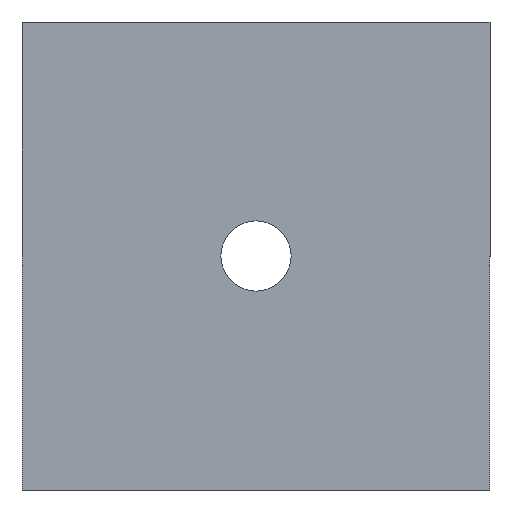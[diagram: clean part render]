
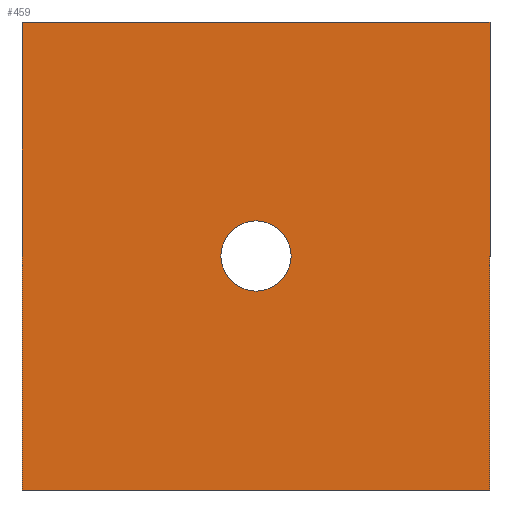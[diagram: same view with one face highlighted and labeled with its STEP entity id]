
A CAD part, front view. The second image highlights one B-rep face of the part: STEP entity #459.
In plain terms, the highlighted planar face has unit normal (0, -1, 0).
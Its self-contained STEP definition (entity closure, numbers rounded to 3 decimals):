
#10 = DIRECTION ( 'NONE',  ( -1., 0., 0. ) ) ;
#11 = LINE ( 'NONE', #58, #465 ) ;
#23 = CARTESIAN_POINT ( 'NONE',  ( -15., 0., -15. ) ) ;
#57 = CIRCLE ( 'NONE', #281, 2.25 ) ;
#58 = CARTESIAN_POINT ( 'NONE',  ( -15., 0., -15. ) ) ;
#60 = EDGE_CURVE ( 'NONE', #222, #157, #57, .T. ) ;
#61 = VECTOR ( 'NONE', #477, 1000. ) ;
#67 = DIRECTION ( 'NONE',  ( 0., 0., 1. ) ) ;
#91 = ORIENTED_EDGE ( 'NONE', *, *, #543, .F. ) ;
#147 = AXIS2_PLACEMENT_3D ( 'NONE', #556, #334, #67 ) ;
#150 = DIRECTION ( 'NONE',  ( 0., 0., 1. ) ) ;
#152 = EDGE_CURVE ( 'NONE', #265, #256, #11, .T. ) ;
#153 = ORIENTED_EDGE ( 'NONE', *, *, #152, .F. ) ;
#157 = VERTEX_POINT ( 'NONE', #232 ) ;
#160 = CARTESIAN_POINT ( 'NONE',  ( 15., 0., -15. ) ) ;
#191 = VECTOR ( 'NONE', #416, 1000. ) ;
#196 = AXIS2_PLACEMENT_3D ( 'NONE', #561, #328, #514 ) ;
#205 = CARTESIAN_POINT ( 'NONE',  ( 0., 0., 2.25 ) ) ;
#211 = EDGE_LOOP ( 'NONE', ( #313, #153, #263, #91 ) ) ;
#214 = LINE ( 'NONE', #338, #61 ) ;
#222 = VERTEX_POINT ( 'NONE', #205 ) ;
#232 = CARTESIAN_POINT ( 'NONE',  ( 0., 0., -2.25 ) ) ;
#238 = VECTOR ( 'NONE', #379, 1000. ) ;
#254 = FACE_OUTER_BOUND ( 'NONE', #211, .T. ) ;
#256 = VERTEX_POINT ( 'NONE', #23 ) ;
#263 = ORIENTED_EDGE ( 'NONE', *, *, #426, .F. ) ;
#265 = VERTEX_POINT ( 'NONE', #160 ) ;
#281 = AXIS2_PLACEMENT_3D ( 'NONE', #494, #399, #150 ) ;
#284 = CARTESIAN_POINT ( 'NONE',  ( 15., 0., 15. ) ) ;
#292 = CARTESIAN_POINT ( 'NONE',  ( -15., 0., 15. ) ) ;
#309 = ORIENTED_EDGE ( 'NONE', *, *, #60, .T. ) ;
#313 = ORIENTED_EDGE ( 'NONE', *, *, #383, .F. ) ;
#318 = LINE ( 'NONE', #292, #238 ) ;
#319 = EDGE_CURVE ( 'NONE', #157, #222, #413, .T. ) ;
#328 = DIRECTION ( 'NONE',  ( 0., 1., 0. ) ) ;
#334 = DIRECTION ( 'NONE',  ( 0., 1., 0. ) ) ;
#338 = CARTESIAN_POINT ( 'NONE',  ( -15., 0., -15. ) ) ;
#341 = CARTESIAN_POINT ( 'NONE',  ( -15., 0., 15. ) ) ;
#379 = DIRECTION ( 'NONE',  ( 1., 0., 0. ) ) ;
#383 = EDGE_CURVE ( 'NONE', #256, #582, #214, .T. ) ;
#399 = DIRECTION ( 'NONE',  ( 0., 1., 0. ) ) ;
#413 = CIRCLE ( 'NONE', #147, 2.25 ) ;
#416 = DIRECTION ( 'NONE',  ( 0., 0., -1. ) ) ;
#426 = EDGE_CURVE ( 'NONE', #446, #265, #504, .T. ) ;
#446 = VERTEX_POINT ( 'NONE', #284 ) ;
#458 = CARTESIAN_POINT ( 'NONE',  ( 15., 0., -15. ) ) ;
#459 = ADVANCED_FACE ( 'NONE', ( #523, #254 ), #462, .F. ) ;
#462 = PLANE ( 'NONE',  #196 ) ;
#465 = VECTOR ( 'NONE', #10, 1000. ) ;
#477 = DIRECTION ( 'NONE',  ( 0., 0., 1. ) ) ;
#484 = EDGE_LOOP ( 'NONE', ( #309, #555 ) ) ;
#494 = CARTESIAN_POINT ( 'NONE',  ( 0., 0., 0. ) ) ;
#504 = LINE ( 'NONE', #458, #191 ) ;
#514 = DIRECTION ( 'NONE',  ( 0., 0., 1. ) ) ;
#523 = FACE_BOUND ( 'NONE', #484, .T. ) ;
#543 = EDGE_CURVE ( 'NONE', #582, #446, #318, .T. ) ;
#555 = ORIENTED_EDGE ( 'NONE', *, *, #319, .T. ) ;
#556 = CARTESIAN_POINT ( 'NONE',  ( 0., 0., 0. ) ) ;
#561 = CARTESIAN_POINT ( 'NONE',  ( 0., 0., 0. ) ) ;
#582 = VERTEX_POINT ( 'NONE', #341 ) ;
